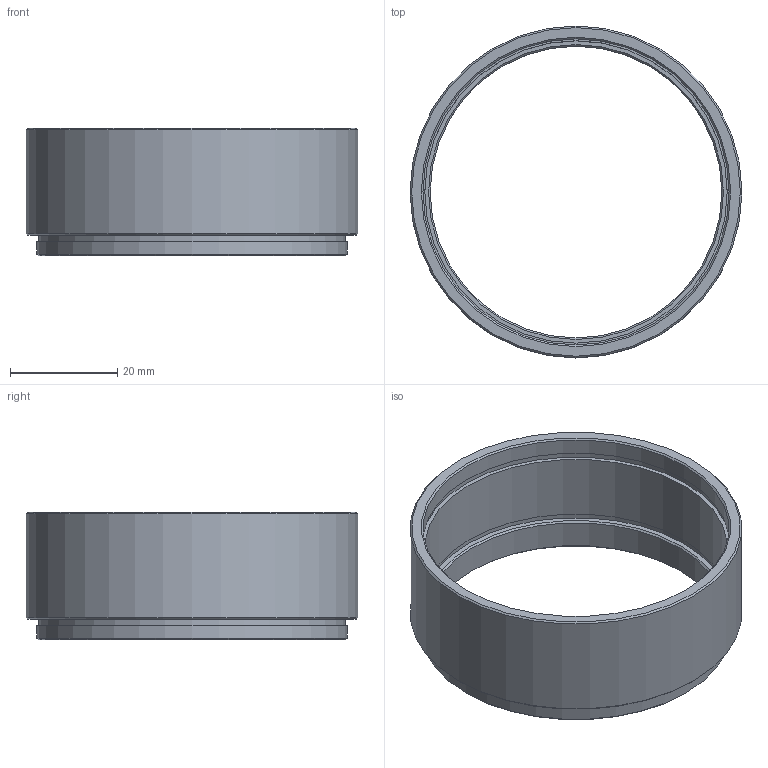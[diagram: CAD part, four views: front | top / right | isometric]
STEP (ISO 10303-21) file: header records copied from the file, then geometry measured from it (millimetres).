
FILE_DESCRIPTION (( 'STEP AP203' ), '1' );
FILE_NAME ('3d_exr-m58-l20_a001.STEP', '2019-03-15T05:14:30', ( '' ), ( '' ), 'SwSTEP 2.0', 'SolidWorks 2014', '' );
FILE_SCHEMA (( 'CONFIG_CONTROL_DESIGN' ));
Length unit declared in the file: millimetre
Products named in the file (1): 3d_exr-m58-l20_a001
Bounding box: 62 x 62 x 23.8 mm (x, y, z)
Volume: 11212.7 mm3; surface area: 10346.4 mm2
Topology: 1 solids, 1 shells, 22 faces, 39 edges, 25 vertices
Faces by surface type: cylinder 8, plane 8, cone 6
Full cylindrical faces by diameter (mm): 54.5 x1, 56.5 x1, 57 x1, 57.2 x2, 58 x2, 62 x1
Entity records: 525 total; most frequent: DIRECTION 90, CARTESIAN_POINT 67, AXIS2_PLACEMENT_3D 45, ORIENTED_EDGE 44, EDGE_LOOP 44, FACE_OUTER_BOUND 30, ADVANCED_FACE 22, CIRCLE 22
